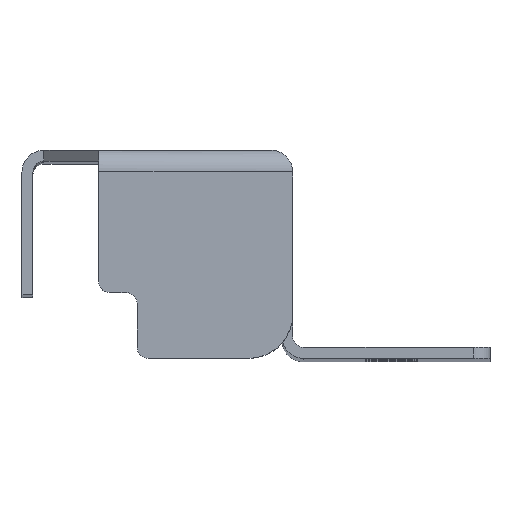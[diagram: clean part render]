
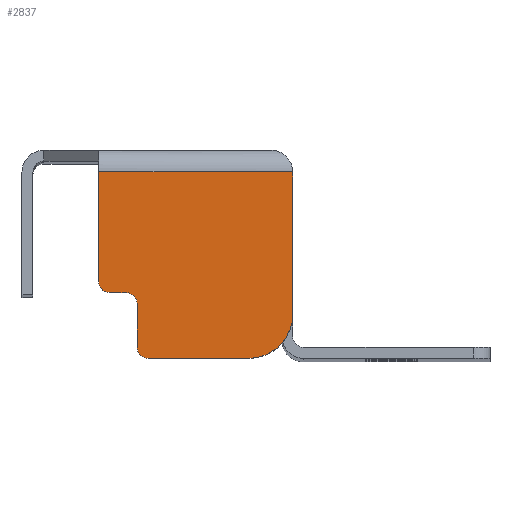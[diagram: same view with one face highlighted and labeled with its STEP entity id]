
A CAD part, top view. The second image highlights one B-rep face of the part: STEP entity #2837.
In plain terms, the highlighted planar face has unit normal (0, 0, 1).
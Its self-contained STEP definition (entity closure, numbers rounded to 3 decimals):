
#47 = CIRCLE ( 'NONE', #2672, 1. ) ;
#67 = CARTESIAN_POINT ( 'NONE',  ( -15.7, 6., 187.7 ) ) ;
#99 = DIRECTION ( 'NONE',  ( 1., 0., 0. ) ) ;
#122 = CARTESIAN_POINT ( 'NONE',  ( -12.2, 1., 187.7 ) ) ;
#202 = ORIENTED_EDGE ( 'NONE', *, *, #1419, .F. ) ;
#240 = AXIS2_PLACEMENT_3D ( 'NONE', #532, #2291, #784 ) ;
#246 = VECTOR ( 'NONE', #99, 1000. ) ;
#296 = DIRECTION ( 'NONE',  ( 0., 0., -1. ) ) ;
#304 = CARTESIAN_POINT ( 'NONE',  ( -16.7, 0., 187.7 ) ) ;
#323 = AXIS2_PLACEMENT_3D ( 'NONE', #122, #296, #1609 ) ;
#327 = EDGE_CURVE ( 'NONE', #770, #980, #2255, .T. ) ;
#364 = ORIENTED_EDGE ( 'NONE', *, *, #327, .F. ) ;
#397 = DIRECTION ( 'NONE',  ( 0., -1., 0. ) ) ;
#525 = ORIENTED_EDGE ( 'NONE', *, *, #2418, .F. ) ;
#532 = CARTESIAN_POINT ( 'NONE',  ( -3., 4., 187.7 ) ) ;
#562 = LINE ( 'NONE', #1219, #1149 ) ;
#566 = VERTEX_POINT ( 'NONE', #1342 ) ;
#574 = VERTEX_POINT ( 'NONE', #2454 ) ;
#605 = ORIENTED_EDGE ( 'NONE', *, *, #2108, .F. ) ;
#642 = CIRCLE ( 'NONE', #323, 1. ) ;
#648 = EDGE_CURVE ( 'NONE', #798, #1364, #1484, .T. ) ;
#659 = CARTESIAN_POINT ( 'NONE',  ( -21.7, 17., 187.7 ) ) ;
#669 = DIRECTION ( 'NONE',  ( 0., 0., 1. ) ) ;
#677 = ORIENTED_EDGE ( 'NONE', *, *, #1263, .F. ) ;
#682 = PLANE ( 'NONE',  #824 ) ;
#753 = VERTEX_POINT ( 'NONE', #1171 ) ;
#770 = VERTEX_POINT ( 'NONE', #1236 ) ;
#784 = DIRECTION ( 'NONE',  ( -1., 0., 0. ) ) ;
#798 = VERTEX_POINT ( 'NONE', #2823 ) ;
#824 = AXIS2_PLACEMENT_3D ( 'NONE', #659, #669, #1559 ) ;
#839 = DIRECTION ( 'NONE',  ( -1., 0., 0. ) ) ;
#873 = EDGE_CURVE ( 'NONE', #566, #574, #1297, .T. ) ;
#908 = VERTEX_POINT ( 'NONE', #1907 ) ;
#935 = CARTESIAN_POINT ( 'NONE',  ( -15.7, 7., 187.7 ) ) ;
#949 = CARTESIAN_POINT ( 'NONE',  ( -14.2, 6., 187.7 ) ) ;
#967 = DIRECTION ( 'NONE',  ( 0., 0., -1. ) ) ;
#975 = EDGE_CURVE ( 'NONE', #1667, #1760, #562, .T. ) ;
#980 = VERTEX_POINT ( 'NONE', #2537 ) ;
#1011 = VECTOR ( 'NONE', #839, 1000. ) ;
#1045 = ORIENTED_EDGE ( 'NONE', *, *, #975, .T. ) ;
#1120 = DIRECTION ( 'NONE',  ( 0., -1., 0. ) ) ;
#1149 = VECTOR ( 'NONE', #1715, 1000. ) ;
#1159 = LINE ( 'NONE', #1589, #246 ) ;
#1171 = CARTESIAN_POINT ( 'NONE',  ( 1., 17., 187.7 ) ) ;
#1190 = ORIENTED_EDGE ( 'NONE', *, *, #2248, .F. ) ;
#1206 = DIRECTION ( 'NONE',  ( -1., 0., 0. ) ) ;
#1219 = CARTESIAN_POINT ( 'NONE',  ( -16.7, 6., 187.7 ) ) ;
#1236 = CARTESIAN_POINT ( 'NONE',  ( -16.7, 7., 187.7 ) ) ;
#1263 = EDGE_CURVE ( 'NONE', #980, #753, #1159, .T. ) ;
#1296 = CARTESIAN_POINT ( 'NONE',  ( -14.2, 5., 187.7 ) ) ;
#1297 = LINE ( 'NONE', #1689, #2725 ) ;
#1342 = CARTESIAN_POINT ( 'NONE',  ( -13.2, 5., 187.7 ) ) ;
#1364 = VERTEX_POINT ( 'NONE', #2501 ) ;
#1419 = EDGE_CURVE ( 'NONE', #566, #1760, #47, .T. ) ;
#1484 = CIRCLE ( 'NONE', #240, 4. ) ;
#1485 = VECTOR ( 'NONE', #1120, 1000. ) ;
#1559 = DIRECTION ( 'NONE',  ( -1., 0., 0. ) ) ;
#1589 = CARTESIAN_POINT ( 'NONE',  ( -23.7, 17., 187.7 ) ) ;
#1609 = DIRECTION ( 'NONE',  ( -1., 0., 0. ) ) ;
#1614 = CIRCLE ( 'NONE', #1936, 1. ) ;
#1653 = DIRECTION ( 'NONE',  ( -1., 0., 0. ) ) ;
#1667 = VERTEX_POINT ( 'NONE', #67 ) ;
#1680 = EDGE_CURVE ( 'NONE', #1667, #770, #1614, .T. ) ;
#1685 = CARTESIAN_POINT ( 'NONE',  ( -3., 0., 187.7 ) ) ;
#1689 = CARTESIAN_POINT ( 'NONE',  ( -13.2, 0., 187.7 ) ) ;
#1712 = LINE ( 'NONE', #1685, #1011 ) ;
#1714 = VECTOR ( 'NONE', #2486, 1000. ) ;
#1715 = DIRECTION ( 'NONE',  ( 1., 0., 0. ) ) ;
#1760 = VERTEX_POINT ( 'NONE', #949 ) ;
#1828 = ORIENTED_EDGE ( 'NONE', *, *, #1680, .F. ) ;
#1841 = EDGE_LOOP ( 'NONE', ( #1045, #202, #2590, #605, #1190, #2674, #525, #677, #364, #1828 ) ) ;
#1907 = CARTESIAN_POINT ( 'NONE',  ( -12.2, 0., 187.7 ) ) ;
#1936 = AXIS2_PLACEMENT_3D ( 'NONE', #935, #967, #1653 ) ;
#2108 = EDGE_CURVE ( 'NONE', #908, #574, #642, .T. ) ;
#2248 = EDGE_CURVE ( 'NONE', #1364, #908, #1712, .T. ) ;
#2255 = LINE ( 'NONE', #304, #1714 ) ;
#2291 = DIRECTION ( 'NONE',  ( 0., 0., -1. ) ) ;
#2367 = DIRECTION ( 'NONE',  ( 0., 0., 1. ) ) ;
#2418 = EDGE_CURVE ( 'NONE', #753, #798, #2684, .T. ) ;
#2454 = CARTESIAN_POINT ( 'NONE',  ( -13.2, 1., 187.7 ) ) ;
#2486 = DIRECTION ( 'NONE',  ( 0., 1., 0. ) ) ;
#2501 = CARTESIAN_POINT ( 'NONE',  ( -3., 0., 187.7 ) ) ;
#2537 = CARTESIAN_POINT ( 'NONE',  ( -16.7, 17., 187.7 ) ) ;
#2590 = ORIENTED_EDGE ( 'NONE', *, *, #873, .T. ) ;
#2654 = FACE_OUTER_BOUND ( 'NONE', #1841, .T. ) ;
#2672 = AXIS2_PLACEMENT_3D ( 'NONE', #1296, #2367, #1206 ) ;
#2674 = ORIENTED_EDGE ( 'NONE', *, *, #648, .F. ) ;
#2684 = LINE ( 'NONE', #2843, #1485 ) ;
#2725 = VECTOR ( 'NONE', #397, 1000. ) ;
#2823 = CARTESIAN_POINT ( 'NONE',  ( 1., 4., 187.7 ) ) ;
#2837 = ADVANCED_FACE ( 'NONE', ( #2654 ), #682, .T. ) ;
#2843 = CARTESIAN_POINT ( 'NONE',  ( 1., 17., 187.7 ) ) ;
